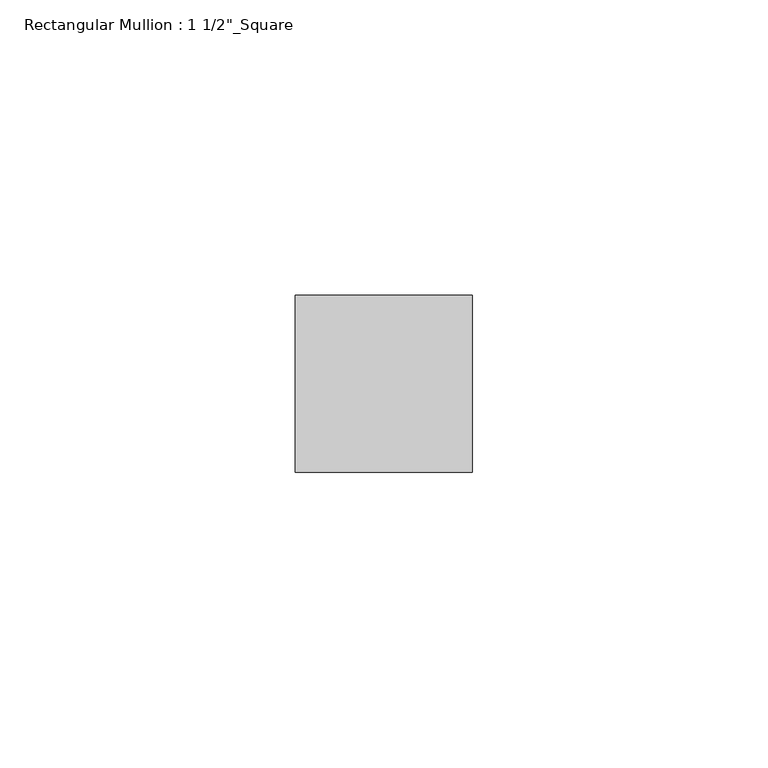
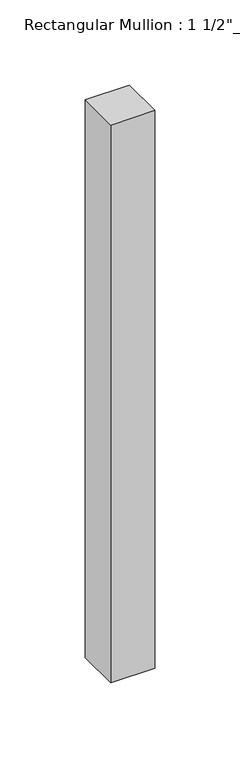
"""IFC4 building model written with IfcOpenShell, lengths in millimetres: member geometry."""

from ifc_helpers import new_model, si_unit, frame, origin, place, context, project, spatial, polyline, outline, extrude, source, transform, mapped, element, save


def member_c79b6a82(model_context):
    return source(origin(), model_context, "Body", "SweptSolid", [
        extrude(outline(polyline([(0.0, 27.5), (0.0, -2.5), (-30.0, -2.5), (-30.0, 27.5), (0.0, 27.5)])), frame((0.0, 0.0, -400.0), z_axis=(0.0, 0.0, 1.0), x_axis=(1.0, 0.0, 0.0)), (0.0, 0.0, 1.0), 400.0),
    ])


if __name__ == "__main__":
    model = new_model("IFC4")
    model_context = context("Model", 3, world=origin())
    ifc_project = project(units=[si_unit("LENGTHUNIT", "METRE", prefix="MILLI")], contexts=[model_context])
    site = spatial("IfcSite", under=ifc_project)
    building = spatial("IfcBuilding", under=site)
    placement = place(None, origin())
    member_shape = member_c79b6a82(model_context)
    element("IfcMember", 1, ObjectType="Rectangular Mullion : 1 1/2\"_Square", at=placement, inside=building, context=model_context, shape_type="MappedRepresentation", body=[
        mapped(member_shape, transform((0.0, 0.0, 0.0), x_axis=(1.0, 0.0, 0.0), y_axis=(0.0, 1.0, 0.0), z_axis=(0.0, 0.0, 1.0))),
    ])
    save(model, "model.ifc")
